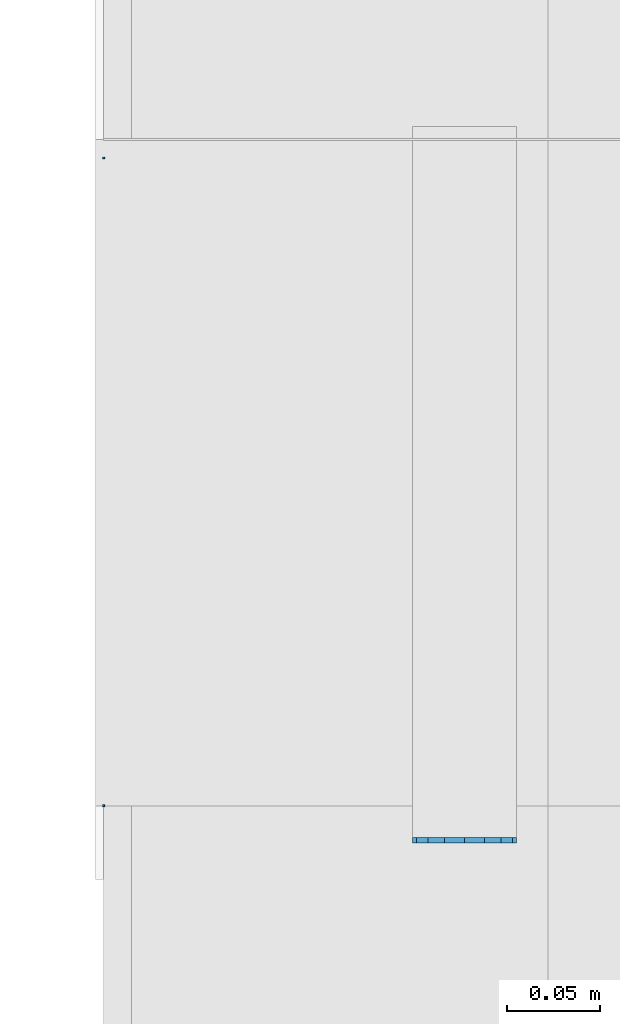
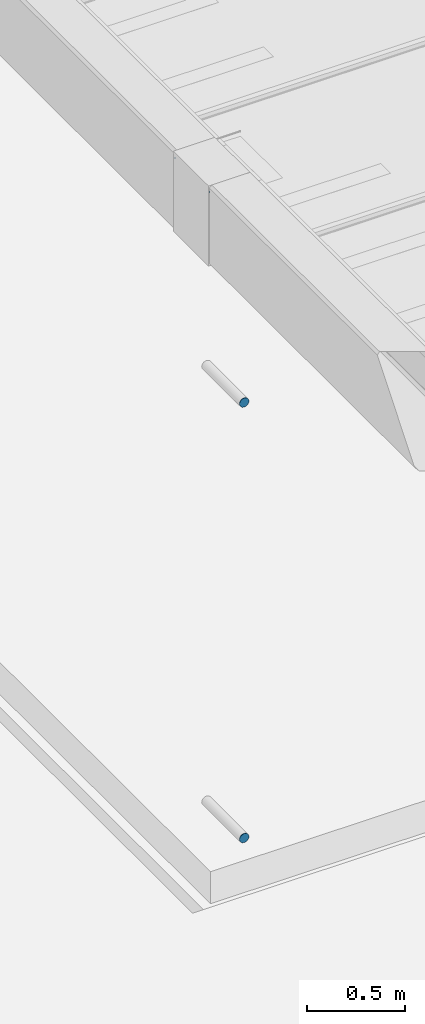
# One storey, part 34 of 230: 4 beams.
"""IFC4X3_ADD2 building model written with IfcOpenShell, lengths in millimetres."""

from ifc_helpers import new_model, si_unit, direction, frame, frame_2d, origin_with_axes, place, context, subcontext, project, spatial, indexed_curve, rectangle, outline, extrude, material, element, save


model = new_model("IFC4X3_ADD2")

# Units and contexts
model_context = context("Model", 3, precision=1e-05, world=origin_with_axes(), true_north=direction((0.0, 1.0)))
body_context = subcontext(model_context, "Body", "Model", "MODEL_VIEW")
ifc_project = project(units=[si_unit("LENGTHUNIT", "METRE", prefix="MILLI"), si_unit("AREAUNIT", "SQUARE_METRE"), si_unit("VOLUMEUNIT", "CUBIC_METRE"), si_unit("PLANEANGLEUNIT", "RADIAN"), si_unit("TIMEUNIT", "SECOND"), si_unit("MASSUNIT", "GRAM")], contexts=[model_context])

# Site, building, storey
site_placement = place(None, origin_with_axes())
site = spatial("IfcSite", under=ifc_project, at=site_placement, Name="Site", CompositionType="ELEMENT")
building_placement = place(site_placement, origin_with_axes())
building = spatial("IfcBuilding", under=site, at=building_placement, Name="IFC Building Story")
storey_placement = place(building_placement, origin_with_axes())
storey = spatial("IfcBuildingStorey", under=building, at=storey_placement, Name="ETAGE 00 (0)", Elevation=0.0)

# Beams
ifc_material_1 = material(Name="STEEL/Accessory 22919")
for number, where, z_axis, x_axis, name in (
    (1, (33401.189, -8227.0, 140.0), (0.0, -1.0, 0.0), (-0.1950903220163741, 0.0, 0.9807852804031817), "TA4"),
    (2, (33401.189, -8227.0, 2860.0), (0.0, -1.0, 0.0), (-0.1950903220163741, 0.0, 0.9807852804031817), "TA4"),
):
    element("IfcBeam", number, at=place(storey_placement, frame(where, z_axis=z_axis, x_axis=x_axis)), inside=storey, material=ifc_material_1, Name=name, ObjectType="D56", context=body_context, shape_type="SweptSolid", body=[
        extrude(outline(indexed_curve([(23.28114914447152, 15.55596652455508), (27.46198785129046, 5.462529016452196), (27.46198785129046, -5.462529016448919), (23.28114914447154, -15.55596652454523), (15.55596652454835, -23.28114914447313), (5.462529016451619, -27.46198785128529), (-5.462529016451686, -27.46198785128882), (-15.55596652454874, -23.28114914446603), (-23.2811491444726, -15.55596652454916), (-27.46198785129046, -5.462529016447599), (-27.46198785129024, 5.462529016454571), (-23.28114914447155, 15.55596652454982), (-15.55596652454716, 23.28114914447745), (-5.462529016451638, 27.46198785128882), (5.462529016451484, 27.46198785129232), (15.55596652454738, 23.28114914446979), (23.28114914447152, 15.55596652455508)])), origin_with_axes(), (0.0, 0.0, 1.0), 3.0),
    ])
ifc_material_2 = material(Name="STEEL/Accessory_invisible")
for number, where, z_axis, x_axis, name in (
    (3, (33206.688, -8210.0, 4231.00471881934), (-1.0, 0.0, 0.0), (0.0, 0.0, 1.0), "ZW3"),
    (4, (33206.688, -7860.0, 4231.00471881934), (-1.0, 0.0, 0.0), (0.0, 0.0, 1.0), "ZW3"),
):
    element("IfcBeam", number, at=place(storey_placement, frame(where, z_axis=z_axis, x_axis=x_axis)), inside=storey, material=ifc_material_2, Name=name, ObjectType="1*1 5", context=body_context, shape_type="SweptSolid", body=[
        extrude(rectangle(XDim=10.3612973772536, YDim=0.9999999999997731, at=frame_2d((0.0, 5.95523630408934e-12), x_axis=(1.0, 0.0))), origin_with_axes(), (0.0, 0.0, 1.0), 1.0),
    ])

save(model, "model.ifc")
